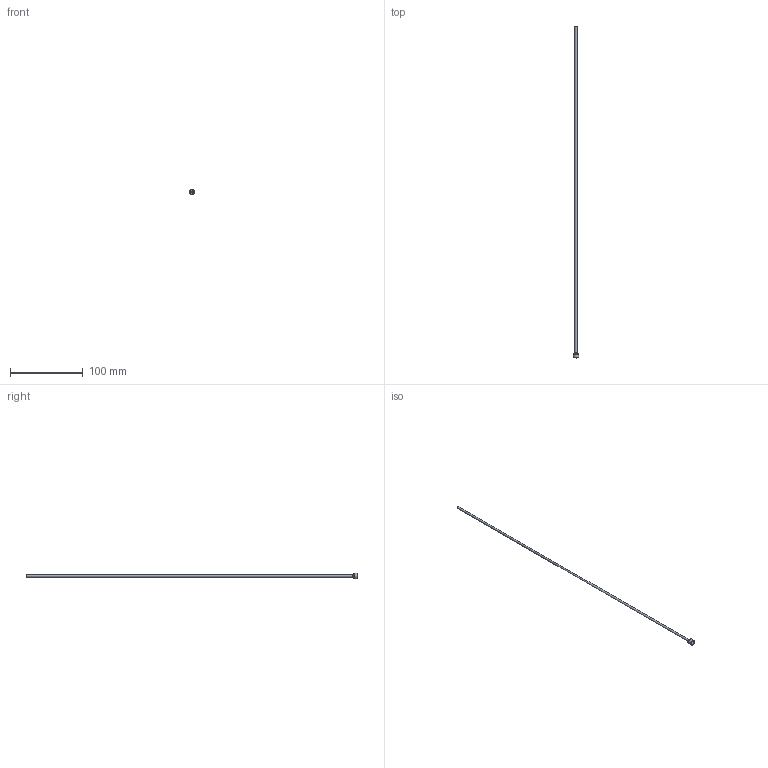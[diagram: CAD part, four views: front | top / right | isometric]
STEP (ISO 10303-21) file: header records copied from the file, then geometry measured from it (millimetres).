
FILE_DESCRIPTION(/* description */ (''),/* implementation_level */ '2;1');
FILE_NAME(/* name */ 'C:/Users/drich/Desktop/PT16-109-18 v1.step',/* time_stamp */ '2019-12-27T15:17:13-06:00',/* author */ (''),/* organization */ (''),/* preprocessor_version */ 'ST-DEVELOPER v18',/* originating_system */ 'Autodesk Translation Framework v8.12.0.6',/* authorisation */ '');
FILE_SCHEMA (('AUTOMOTIVE_DESIGN { 1 0 10303 214 3 1 1 }'));
Length unit declared in the file: inch
Products named in the file (1): PT16-109-18
Bounding box: 7.62 x 457.2 x 7.62 mm (x, y, z)
Volume: 877.4 mm3; surface area: 7629.6 mm2
Topology: 1 solids, 1 shells, 19 faces, 48 edges, 34 vertices
Faces by surface type: plane 11, cylinder 4, torus 2, cone 2
Full cylindrical faces by diameter (mm): 2.413 x1, 2.769 x1, 4.724 x1, 7.616 x1
Entity records: 633 total; most frequent: DIRECTION 112, CARTESIAN_POINT 102, ORIENTED_EDGE 96, EDGE_CURVE 48, AXIS2_PLACEMENT_3D 44, VERTEX_POINT 34, CIRCLE 24, EDGE_LOOP 24
